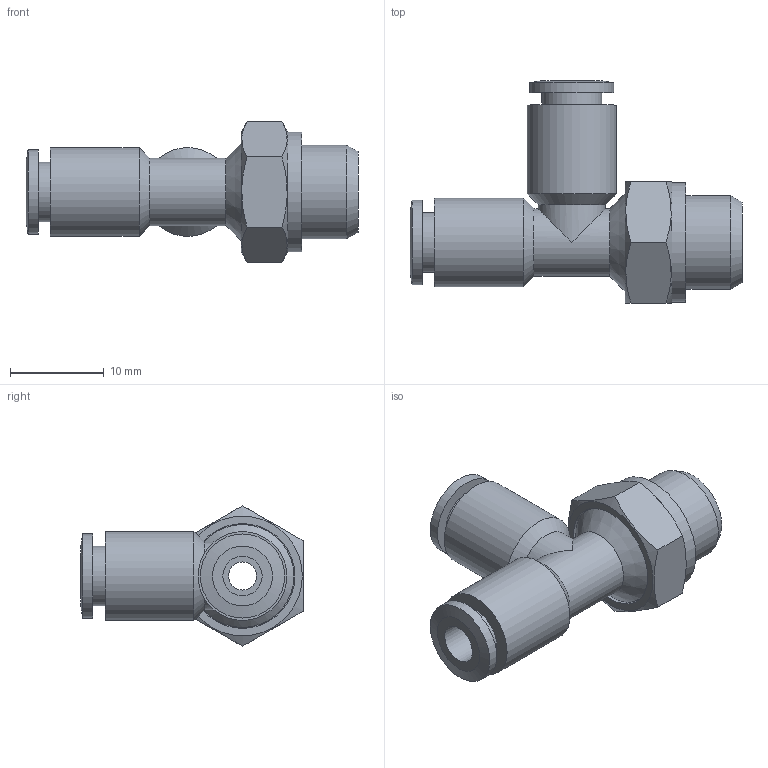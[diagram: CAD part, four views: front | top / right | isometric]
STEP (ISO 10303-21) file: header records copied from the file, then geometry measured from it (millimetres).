
FILE_DESCRIPTION((''),'2;1');
FILE_NAME('C:\Documents and Settings\rivolro1\Documenti\copia di Raccordi\PLASTICA\T21XXXX\T210418.stp','2007-11-02T08:39:16',('Rivolro1'),(''),'Autodesk Inventor 2008','Autodesk Inventor 2008','');
FILE_SCHEMA(('AUTOMOTIVE_DESIGN { 1 0 10303 214 1 1 1 1 }'));
Length unit declared in the file: millimetre
Products named in the file (1): T210418
Bounding box: 35.5 x 23.8 x 15.01 mm (x, y, z)
Volume: 3040.8 mm3; surface area: 2559.6 mm2
Topology: 1 solids, 1 shells, 43 faces, 86 edges, 56 vertices
Faces by surface type: plane 16, cylinder 13, cone 8, bspline 6
Full cylindrical faces by diameter (mm): 6.4 x2, 7.2 x2, 9 x2, 9.5 x2, 10 x1, 11 x1, 11.2 x1, 12.8 x1
Entity records: 1133 total; most frequent: CARTESIAN_POINT 302, DIRECTION 154, ORIENTED_EDGE 112, EDGE_LOOP 80, AXIS2_PLACEMENT_3D 74, EDGE_CURVE 56, VERTEX_POINT 50, FACE_OUTER_BOUND 43
